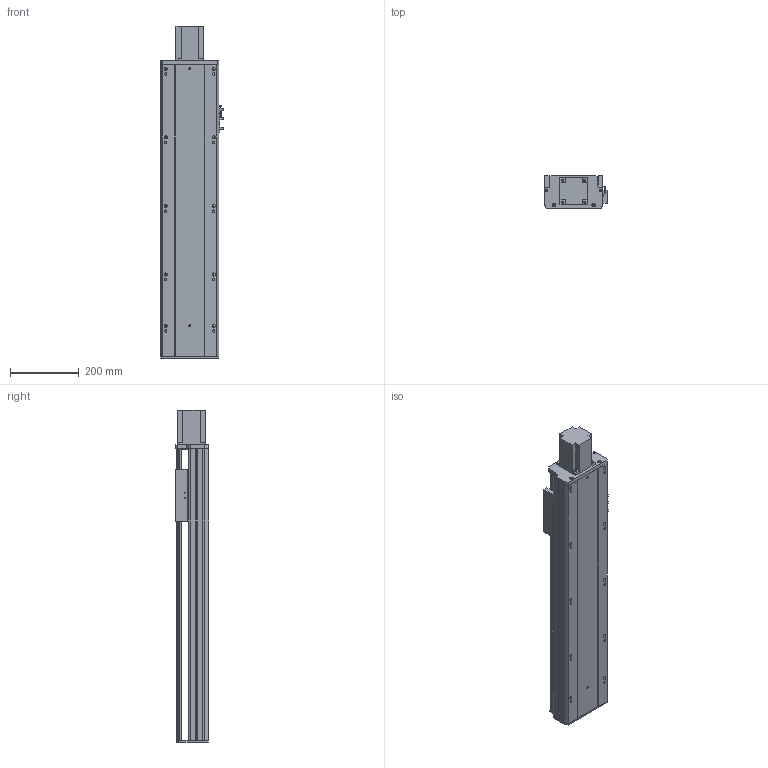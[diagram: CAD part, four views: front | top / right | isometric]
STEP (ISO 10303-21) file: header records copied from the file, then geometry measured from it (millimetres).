
FILE_DESCRIPTION (( 'STEP AP203' ), '1' );
FILE_NAME ('Y170-D10-S600-BD-P750W.STEP', '2020-01-22T06:49:30', ( '微软用户' ), ( '微软中国' ), 'SwSTEP 2.0', 'SolidWorks 2017', '' );
FILE_SCHEMA (( 'CONFIG_CONTROL_DESIGN' ));
Length unit declared in the file: millimetre
Products named in the file (10): 170--掛极-BD; Y170-萇儂楊擘啣--; 135-盓傅釱-FK15; 侂狟750W; Y170耜裔--準---; Y170-陔遴奻裔-BD; Y170--雄赽釱-梓--; YD-Y100-135-新外置传感挡片(通用）; Y170-D10-S600-BD-P750W; Y100-135俋离換覜ん
Assembly tree (11 placements, depth 2):
  Y170-D10-S600-BD-P750W
    YD-Y100-135-新外置传感挡片(通用）
    Y100-135俋离換覜ん  x3
    170--掛极-BD
    Y170-萇儂楊擘啣--
    135-盓傅釱-FK15
    侂狟750W
    Y170耜裔--準---
    Y170-陔遴奻裔-BD
    Y170--雄赽釱-梓--
Bounding box: 183.5 x 97 x 968.5 mm (x, y, z)
Volume: 4362405.4 mm3; surface area: 1415135.4 mm2
Topology: 11 solids, 11 shells, 804 faces, 2259 edges, 1496 vertices
Faces by surface type: cylinder 414, plane 388, torus 2
Entity records: 25871 total; most frequent: CARTESIAN_POINT 4539, DIRECTION 4345, ORIENTED_EDGE 4182, EDGE_CURVE 2091, AXIS2_PLACEMENT_3D 1558, VERTEX_POINT 1384, VECTOR 1229, LINE 1229
